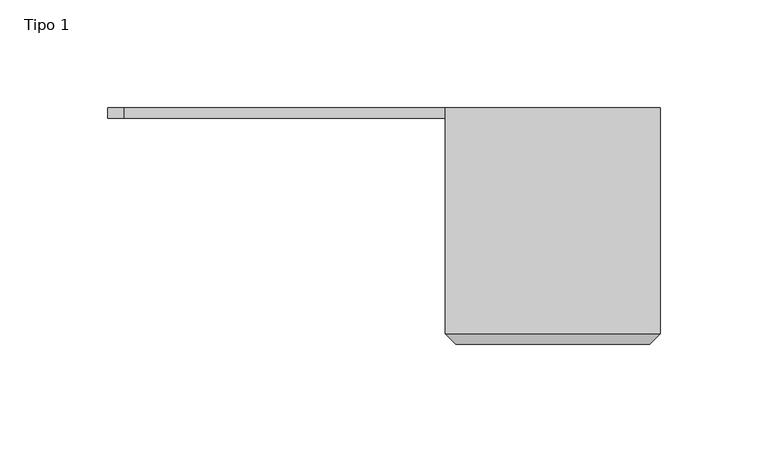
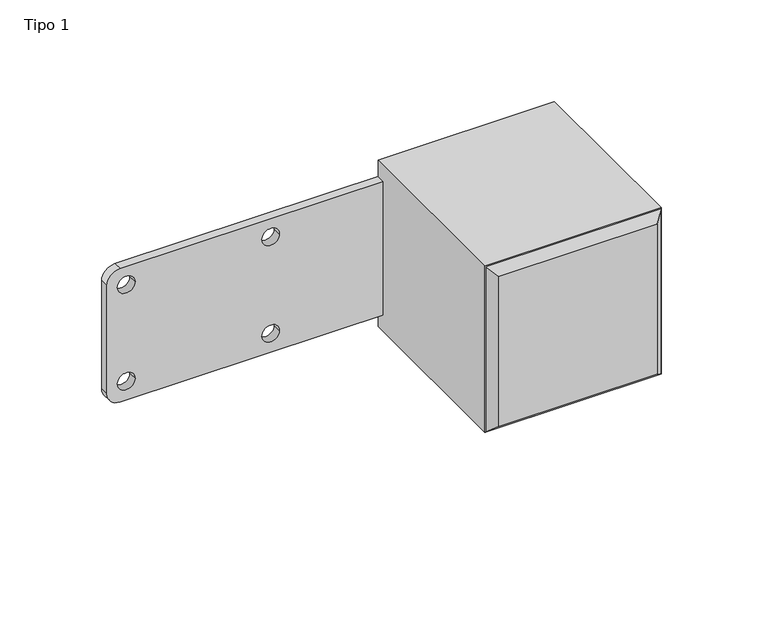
"""IFC4 building model written with IfcOpenShell, lengths in millimetres: proxy geometry, Ercole ANGOLAREorizzontale : Tipo 1."""

import ifcopenshell
import ifcopenshell.guid

model = None  # the IFC model being written
_history = None  # IfcOwnerHistory: only IFC2X3 demands one
_inside = {}  # id of a spatial element -> (the spatial element, [elements in it])
_under = {}  # id of a project, library or spatial element -> (it, [spatial elements below it])
_declared = {}  # id of a project -> (the project, [libraries it declares])
_typed = {}  # id of a type object -> (the type object, [elements of that type])
_made_of = {}  # id of a material, layer set ... -> (it, [elements and type objects made of it])


def new_model(schema):
    """Start an empty IFC model of exactly this schema.

    Asked for "IFC4X3", IfcOpenShell would pick the latest addendum, in which some entities
    have other attributes; the version numbers below select the first issue.
    IFC2X3 requires an IfcOwnerHistory on every rooted entity: one is made here for all.
    """
    global model, _history
    if schema == "IFC4X3":
        model = ifcopenshell.file(schema_version=(4, 3, 0, 0))
    else:
        model = ifcopenshell.file(schema=schema)
    _inside.clear()
    _under.clear()
    _declared.clear()
    _typed.clear()
    _made_of.clear()
    _history = None
    if model.schema == "IFC2X3":
        org = make("IfcOrganization", Name="unknown")
        user = make(
            "IfcPersonAndOrganization",
            ThePerson=make("IfcPerson", FamilyName="unknown"),
            TheOrganization=org,
        )
        app = make(
            "IfcApplication",
            ApplicationDeveloper=org,
            Version="unknown",
            ApplicationFullName="unknown",
            ApplicationIdentifier="unknown",
        )
        _history = make(
            "IfcOwnerHistory",
            OwningUser=user,
            OwningApplication=app,
            ChangeAction="ADDED",
            CreationDate=0,
        )
    return model


def make(cls, **values):
    """One entity of the class cls with the attributes given. An attribute that is None is left unset."""
    return model.create_entity(
        cls, **{name: value for name, value in values.items() if value is not None}
    )


def rooted(cls, **values):
    """An entity with a GlobalId (a new one), such as an element, a storey or a relation."""
    return make(cls, GlobalId=ifcopenshell.guid.new(), OwnerHistory=_history, **values)


def si_unit(unit_type, name, prefix=None):
    """IfcSIUnit, for example si_unit("LENGTHUNIT", "METRE", prefix="MILLI")."""
    return make("IfcSIUnit", UnitType=unit_type, Prefix=prefix, Name=name)


def assignment(units):
    """IfcUnitAssignment: the units of a project."""
    return None if units is None else make("IfcUnitAssignment", Units=units)


def point(xyz):
    """IfcCartesianPoint."""
    return None if xyz is None else make("IfcCartesianPoint", Coordinates=xyz)


def direction(xyz):
    """IfcDirection."""
    return None if xyz is None else make("IfcDirection", DirectionRatios=xyz)


def frame(location, z_axis=None, x_axis=None):
    """IfcAxis2Placement3D, a coordinate frame: its origin and axes. An axis left out is left unset."""
    return make(
        "IfcAxis2Placement3D",
        Location=point(location),
        Axis=direction(z_axis),
        RefDirection=direction(x_axis),
    )


def frame_2d(location, x_axis=None):
    """IfcAxis2Placement2D, a coordinate frame in the plane: its origin and x axis."""
    return make(
        "IfcAxis2Placement2D", Location=point(location), RefDirection=direction(x_axis)
    )


def origin():
    """The frame at (0, 0, 0) with its axes left unset."""
    return frame((0.0, 0.0, 0.0))


def place(relative_to, where):
    """IfcLocalPlacement: puts the frame where relative to a parent placement (None: the world)."""
    return make(
        "IfcLocalPlacement", PlacementRelTo=relative_to, RelativePlacement=where
    )


def context(
    kind, dimensions, precision=None, world=None, true_north=None, identifier=None
):
    """IfcGeometricRepresentationContext, for example the 3D "Model" context."""
    return make(
        "IfcGeometricRepresentationContext",
        ContextIdentifier=identifier,
        ContextType=kind,
        CoordinateSpaceDimension=dimensions,
        Precision=precision,
        WorldCoordinateSystem=world,
        TrueNorth=true_north,
    )


def project(units=None, contexts=None):
    """IfcProject with its units and contexts."""
    return rooted(
        "IfcProject",
        Name="project",
        RepresentationContexts=contexts,
        UnitsInContext=assignment(units),
    )


def spatial(cls, under=None, at=None, **own):
    """A site, building, storey or space (cls), placed at a placement, below another one or the project."""
    s = rooted(cls, ObjectPlacement=at, **own)
    if under is not None:
        _under.setdefault(under.id(), (under, []))[1].append(s)
    return s


def polyline(points):
    """IfcPolyline through the points."""
    return make("IfcPolyline", Points=[point(p) for p in points])


def circle_curve(where, radius):
    """IfcCircle in the frame where."""
    return make("IfcCircle", Position=where, Radius=radius)


def trimmed(basis, trim1, trim2, sense, master):
    """IfcTrimmedCurve: the piece of a basis curve between two trims."""
    return make(
        "IfcTrimmedCurve",
        BasisCurve=basis,
        Trim1=trim1,
        Trim2=trim2,
        SenseAgreement=sense,
        MasterRepresentation=master,
    )


def segment(curve, same_sense, transition):
    """IfcCompositeCurveSegment."""
    return make(
        "IfcCompositeCurveSegment",
        Transition=transition,
        SameSense=same_sense,
        ParentCurve=curve,
    )


def composite_curve(segments, self_intersect=None):
    """IfcCompositeCurve: segments joined end to end."""
    return make("IfcCompositeCurve", Segments=segments, SelfIntersect=self_intersect)


def outline(outer, holes=None, kind="AREA"):
    """IfcArbitraryClosedProfileDef: a profile drawn as a closed curve; with holes, ...WithVoids."""
    if holes is None:
        return make("IfcArbitraryClosedProfileDef", ProfileType=kind, OuterCurve=outer)
    return make(
        "IfcArbitraryProfileDefWithVoids",
        ProfileType=kind,
        OuterCurve=outer,
        InnerCurves=holes,
    )


def extrude(swept, where, along, depth):
    """IfcExtrudedAreaSolid: the profile swept, set in the frame where, extruded along a direction by depth."""
    return make(
        "IfcExtrudedAreaSolid",
        SweptArea=swept,
        Position=where,
        ExtrudedDirection=direction(along),
        Depth=depth,
    )


def faces_of(points, faces, orient=None, outer=None):
    """IfcFace entities. A face is a list of loops; a loop is a list of indices into points, from 0.

    orient and outer hold one flag for each loop. By default every Orientation is true, the
    first loop of a face is its IfcFaceOuterBound and the others are IfcFaceBound.
    """
    made = []
    for i, loops in enumerate(faces):
        bounds = []
        for j, loop in enumerate(loops):
            is_outer = j == 0 if outer is None else outer[i][j]
            bounds.append(
                make(
                    "IfcFaceOuterBound" if is_outer else "IfcFaceBound",
                    Bound=make("IfcPolyLoop", Polygon=[points[k] for k in loop]),
                    Orientation=True if orient is None else orient[i][j],
                )
            )
        made.append(make("IfcFace", Bounds=bounds))
    return made


def faceted_brep(points, faces, orient=None, outer=None, voids=None):
    """IfcFacetedBrep: a solid bounded by flat faces; with voids (closed shells), ...WithVoids."""
    shared = [point(p) for p in points]
    hull = make("IfcClosedShell", CfsFaces=faces_of(shared, faces, orient, outer))
    if voids is None:
        return make("IfcFacetedBrep", Outer=hull)
    return make(
        "IfcFacetedBrepWithVoids",
        Outer=hull,
        Voids=[
            make(cls, CfsFaces=faces_of(shared, fs, o, b)) for cls, fs, o, b in voids
        ],
    )


def shape(context_of_items, identifier, shape_type, items):
    """IfcShapeRepresentation: the items that make up one representation, for example the "Body"."""
    return make(
        "IfcShapeRepresentation",
        ContextOfItems=context_of_items,
        RepresentationIdentifier=identifier,
        RepresentationType=shape_type,
        Items=items,
    )


def source(mapping_origin, context_of_items, identifier, shape_type, items):
    """IfcRepresentationMap: a shape defined once, which mapped items show again and again."""
    return make(
        "IfcRepresentationMap",
        MappingOrigin=mapping_origin,
        MappedRepresentation=shape(context_of_items, identifier, shape_type, items),
    )


def transform(
    local_origin,
    x_axis=None,
    y_axis=None,
    z_axis=None,
    scale=None,
    scale2=None,
    scale3=None,
    uniform=True,
):
    """IfcCartesianTransformationOperator3D, or its non-uniform kind. x_axis, y_axis, z_axis: its Axis1, 2, 3."""
    if uniform:
        return make(
            "IfcCartesianTransformationOperator3D",
            Axis1=direction(x_axis),
            Axis2=direction(y_axis),
            LocalOrigin=point(local_origin),
            Scale=scale,
            Axis3=direction(z_axis),
        )
    return make(
        "IfcCartesianTransformationOperator3DnonUniform",
        Axis1=direction(x_axis),
        Axis2=direction(y_axis),
        LocalOrigin=point(local_origin),
        Scale=scale,
        Axis3=direction(z_axis),
        Scale2=scale2,
        Scale3=scale3,
    )


def mapped(mapping_source, mapping_target):
    """IfcMappedItem: shows the shape of a source again, moved by a transform."""
    return make(
        "IfcMappedItem", MappingSource=mapping_source, MappingTarget=mapping_target
    )


def made_of(thing, what):
    """Note that an element or type object is made of a material, layer set ...; save() writes the relation."""
    if what is not None:
        _made_of.setdefault(what.id(), (what, []))[1].append(thing)
    return thing


def element(
    cls,
    number,
    at=None,
    inside=None,
    cuts=None,
    type_object=None,
    material=None,
    context=None,
    identifier="Body",
    shape_type=None,
    held_by="IfcProductDefinitionShape",
    body=None,
    shapes=None,
    **own,
):
    """One element of the class cls, such as IfcWall. Its Tag is "e" and its number.

    at: its placement. inside: the storey or other place that contains it. cuts: it is an
    opening in that element (IfcRelVoidsElement). A single representation is given by context,
    identifier, shape_type and body (its items); several are given by shapes. held_by: the class
    of the entity that holds the representations. save() writes the other relations.
    """
    e = rooted(cls, Tag="e%d" % number, ObjectPlacement=at, **own)
    if body is not None:
        shapes = [shape(context, identifier, shape_type, body)]
    if shapes is not None:
        e.Representation = make(held_by, Representations=shapes)
    if inside is not None:
        _inside.setdefault(inside.id(), (inside, []))[1].append(e)
    if cuts is not None:
        rooted(
            "IfcRelVoidsElement", RelatingBuildingElement=cuts, RelatedOpeningElement=e
        )
    if type_object is not None:
        _typed.setdefault(type_object.id(), (type_object, []))[1].append(e)
    return made_of(e, material)


def aggregate(whole, parts):
    """IfcRelAggregates: a whole, such as a stair, and the parts it consists of."""
    return rooted("IfcRelAggregates", RelatingObject=whole, RelatedObjects=parts)


def save(model, path):
    """Write the relations noted so far, then the file.

    IfcRelAggregates (storeys below a building ...), IfcRelContainedInSpatialStructure (elements
    in a storey), IfcRelDefinesByType, IfcRelAssociatesMaterial and IfcRelDeclares: one each for
    every whole, place, type object, material and project.
    """
    for whole, parts in _under.values():
        aggregate(whole, parts)
    for where, things in _inside.values():
        rooted(
            "IfcRelContainedInSpatialStructure",
            RelatedElements=things,
            RelatingStructure=where,
        )
    for kind, things in _typed.values():
        rooted("IfcRelDefinesByType", RelatedObjects=things, RelatingType=kind)
    for what, things in _made_of.values():
        rooted("IfcRelAssociatesMaterial", RelatedObjects=things, RelatingMaterial=what)
    for by, libraries in _declared.values():
        rooted("IfcRelDeclares", RelatingContext=by, RelatedDefinitions=libraries)
    model.write(path)


def tipo_1_f2337e46(model_context):
    return source(origin(), model_context, "Body", "SolidModel", [
        extrude(outline(polyline([(-175.0, 629.7029033), (-175.0, 729.7029033), (-70.0, 729.7029033), (-70.0, 719.7028762), (-75.0, 719.7028762), (-75.0, 639.7029304), (-70.0, 639.7029304), (-70.0, 629.7029033), (-175.0, 629.7029033)])), frame((75.0, 0.0, 0.0), z_axis=(1.0, 0.0, 0.0), x_axis=(0.0, 1.0, 0.0)), (0.0, 0.0, 1.0), 100.0),
        faceted_brep([(80.0, -180.0, 724.7029033), (80.0, -180.0, 634.7029033), (170.0, -180.0, 634.7029033), (170.0, -180.0, 724.7029033), (75.0, -175.0, 729.7029033), (175.0, -175.0, 729.7029033), (175.0, -175.0, 629.7029033), (75.0, -175.0, 629.7029033)], [[[0, 1, 2, 3]], [[4, 5, 6, 7]], [[5, 4, 0, 3]], [[6, 5, 3, 2]], [[7, 6, 2, 1]], [[4, 7, 1, 0]]]),
        extrude(outline(composite_curve([segment(polyline([(647.2029304, 168.0888455), (712.2028762, 168.0888455)]), True, "CONTINUOUS"), segment(trimmed(circle_curve(frame_2d((712.2028762, 160.5888455)), 7.5), [point((712.2028762, 168.0888455))], [point((719.7028762, 160.5888455))], False, "CARTESIAN"), True, "CONTINUOUS"), segment(polyline([(719.7028762, 160.5888455), (719.7028762, -74.4107249)]), True, "CONTINUOUS"), segment(trimmed(circle_curve(frame_2d((712.2028762, -74.4107249)), 7.5), [point((719.7028762, -74.4107249))], [point((712.2028762, -81.9107249))], False, "CARTESIAN"), True, "CONTINUOUS"), segment(polyline([(712.2028762, -81.9107249), (647.2029304, -81.9107249)]), True, "CONTINUOUS"), segment(trimmed(circle_curve(frame_2d((647.2029304, -74.4107249)), 7.5), [point((647.2029304, -81.9107249))], [point((639.7029304, -74.4107249))], False, "CARTESIAN"), True, "CONTINUOUS"), segment(polyline([(639.7029304, -74.4107249), (639.7029304, 160.5888455)]), True, "CONTINUOUS"), segment(trimmed(circle_curve(frame_2d((647.2029304, 160.5888455)), 7.5), [point((639.7029304, 160.5888455))], [point((647.2029304, 168.0888455))], False, "CARTESIAN"), True, "CONTINUOUS")], self_intersect=False), holes=[composite_curve([segment(trimmed(circle_curve(frame_2d((650.9481238, 11.0787023)), 5.0), [point((650.9481238, 16.0787023))], [point((650.9481238, 6.0787023))], True, "CARTESIAN"), True, "CONTINUOUS"), segment(trimmed(circle_curve(frame_2d((650.9481238, 11.0787023)), 5.0), [point((650.9481238, 6.0787023))], [point((650.9481238, 16.0787023))], True, "CARTESIAN"), True, "CONTINUOUS")], self_intersect=False), composite_curve([segment(trimmed(circle_curve(frame_2d((708.9483905, 11.0831225)), 5.0), [point((708.9483905, 16.0831225))], [point((708.9483905, 6.0831225))], True, "CARTESIAN"), True, "CONTINUOUS"), segment(trimmed(circle_curve(frame_2d((708.9483905, 11.0831225)), 5.0), [point((708.9483905, 6.0831225))], [point((708.9483905, 16.0831225))], True, "CARTESIAN"), True, "CONTINUOUS")], self_intersect=False), composite_curve([segment(trimmed(circle_curve(frame_2d((701.7029193, 147.0)), 3.5), [point((701.7029193, 143.5))], [point((701.7029193, 150.5))], True, "CARTESIAN"), True, "CONTINUOUS"), segment(trimmed(circle_curve(frame_2d((701.7029193, 147.0)), 3.5), [point((701.7029193, 150.5))], [point((701.7029193, 143.5))], True, "CARTESIAN"), True, "CONTINUOUS")], self_intersect=False), composite_curve([segment(trimmed(circle_curve(frame_2d((657.7032048, 146.9999521)), 3.5), [point((657.7032048, 143.4999521))], [point((657.7032048, 150.4999521))], True, "CARTESIAN"), True, "CONTINUOUS"), segment(trimmed(circle_curve(frame_2d((657.7032048, 146.9999521)), 3.5), [point((657.7032048, 150.4999521))], [point((657.7032048, 143.4999521))], True, "CARTESIAN"), True, "CONTINUOUS")], self_intersect=False), composite_curve([segment(trimmed(circle_curve(frame_2d((701.7029193, 103.0)), 3.5), [point((701.7029193, 106.5))], [point((701.7029193, 99.5))], True, "CARTESIAN"), True, "CONTINUOUS"), segment(trimmed(circle_curve(frame_2d((701.7029193, 103.0)), 3.5), [point((701.7029193, 99.5))], [point((701.7029193, 106.5))], True, "CARTESIAN"), True, "CONTINUOUS")], self_intersect=False), composite_curve([segment(trimmed(circle_curve(frame_2d((657.7032048, 102.9999521)), 3.5), [point((657.7032048, 99.4999521))], [point((657.7032048, 106.4999521))], True, "CARTESIAN"), True, "CONTINUOUS"), segment(trimmed(circle_curve(frame_2d((657.7032048, 102.9999521)), 3.5), [point((657.7032048, 106.4999521))], [point((657.7032048, 99.4999521))], True, "CARTESIAN"), True, "CONTINUOUS")], self_intersect=False), composite_curve([segment(trimmed(circle_curve(frame_2d((708.9483684, -70.9108542)), 5.0), [point((708.9483684, -65.9108542))], [point((708.9483684, -75.9108542))], True, "CARTESIAN"), True, "CONTINUOUS"), segment(trimmed(circle_curve(frame_2d((708.9483684, -70.9108542)), 5.0), [point((708.9483684, -75.9108542))], [point((708.9483684, -65.9108542))], True, "CARTESIAN"), True, "CONTINUOUS")], self_intersect=False), composite_curve([segment(trimmed(circle_curve(frame_2d((650.9481017, -70.9064341)), 5.0), [point((650.9481017, -75.9064341))], [point((650.9481017, -65.9064341))], True, "CARTESIAN"), True, "CONTINUOUS"), segment(trimmed(circle_curve(frame_2d((650.9481017, -70.9064341)), 5.0), [point((650.9481017, -65.9064341))], [point((650.9481017, -75.9064341))], True, "CARTESIAN"), True, "CONTINUOUS")], self_intersect=False)]), frame((0.0, -75.0, 0.0), z_axis=(0.0, 1.0, 0.0), x_axis=(0.0, 0.0, 1.0)), (0.0, 0.0, 1.0), 5.0),
    ])


if __name__ == "__main__":
    model = new_model("IFC4")
    model_context = context("Model", 3, world=origin())
    ifc_project = project(units=[si_unit("LENGTHUNIT", "METRE", prefix="MILLI")], contexts=[model_context])
    site = spatial("IfcSite", under=ifc_project)
    building = spatial("IfcBuilding", under=site)
    placement = place(None, origin())
    tipo_1_shape = tipo_1_f2337e46(model_context)
    element("IfcBuildingElementProxy", 1, Name="Ercole ANGOLAREorizzontale : Tipo 1", ObjectType="Ercole ANGOLAREorizzontale : Tipo 1", at=placement, inside=building, context=model_context, shape_type="MappedRepresentation", body=[
        mapped(tipo_1_shape, transform((0.0, 0.0, 0.0), x_axis=(1.0, 0.0, 0.0), y_axis=(0.0, 1.0, 0.0), z_axis=(0.0, 0.0, 1.0))),
    ])
    save(model, "model.ifc")
